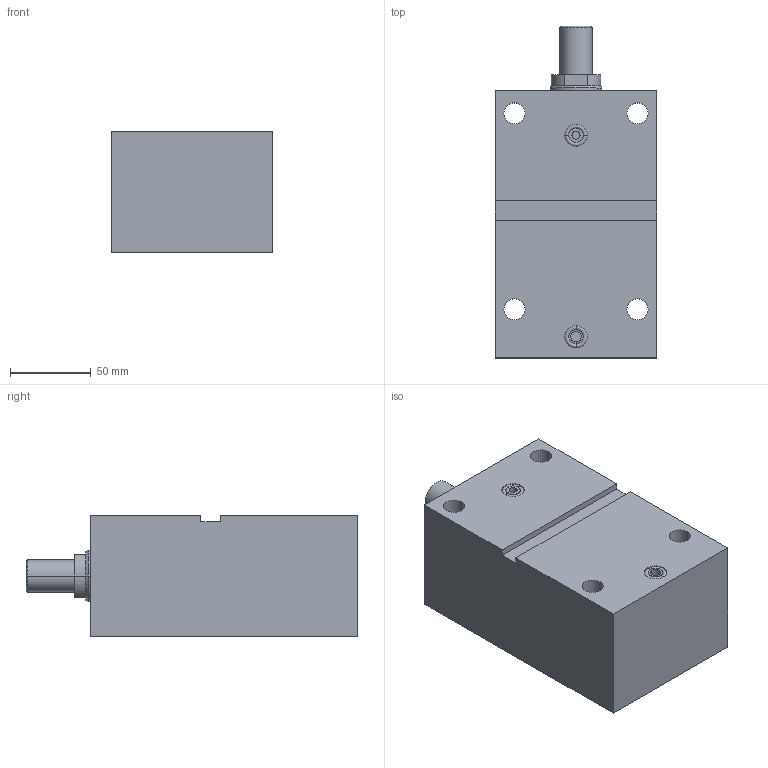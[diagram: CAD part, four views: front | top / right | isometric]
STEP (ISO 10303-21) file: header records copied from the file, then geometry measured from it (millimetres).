
FILE_DESCRIPTION (( 'STEP AP203' ), '1' );
FILE_NAME ('GERMA_Blockzylinder_603-050-100-A.STEP', '2016-01-24T17:21:17', ( '' ), ( '' ), 'SwSTEP 2.0', 'SolidWorks 2015', '' );
FILE_SCHEMA (( 'CONFIG_CONTROL_DESIGN' ));
Length unit declared in the file: millimetre
Products named in the file (3): GERMA_Blockzylinder_603-050-100-A; Kolben 60x-050_Kolben DU.50-Hub100-AG; GH-600-050_GH-603-050-100
Assembly tree (2 placements, depth 2):
  GERMA_Blockzylinder_603-050-100-A
    GH-600-050_GH-603-050-100
    Kolben 60x-050_Kolben DU.50-Hub100-AG
Bounding box: 100 x 205 x 75 mm (x, y, z)
Volume: 1092868.5 mm3; surface area: 133179.3 mm2
Topology: 2 solids, 2 shells, 81 faces, 178 edges, 109 vertices
Faces by surface type: cylinder 39, plane 26, cone 12, torus 4
Entity records: 2534 total; most frequent: DIRECTION 439, CARTESIAN_POINT 369, ORIENTED_EDGE 348, AXIS2_PLACEMENT_3D 179, EDGE_CURVE 174, VERTEX_POINT 109, EDGE_LOOP 101, CIRCLE 93
